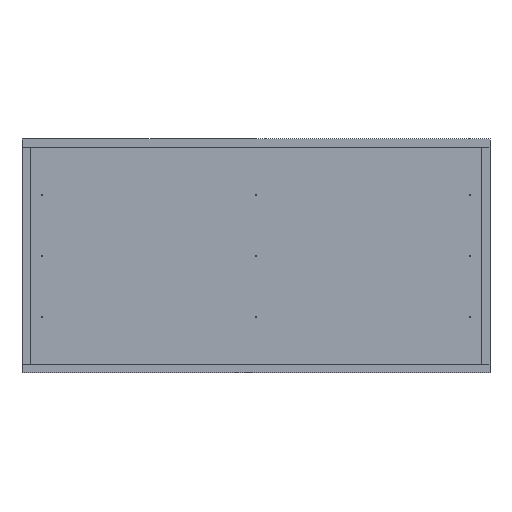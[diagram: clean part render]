
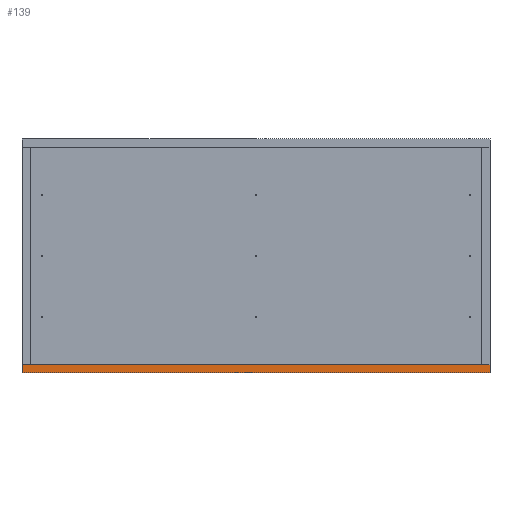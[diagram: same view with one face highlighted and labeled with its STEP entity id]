
A CAD part, left-side view. The second image highlights one B-rep face of the part: STEP entity #139.
In plain terms, the highlighted planar face has unit normal (-1, 0, 0).
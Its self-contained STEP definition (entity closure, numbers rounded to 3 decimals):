
#139 = ADVANCED_FACE('',(#140),#154,.F.);
#140 = FACE_BOUND('',#141,.F.);
#141 = EDGE_LOOP('',(#142,#177,#205,#233));
#142 = ORIENTED_EDGE('',*,*,#143,.F.);
#143 = EDGE_CURVE('',#144,#146,#148,.T.);
#144 = VERTEX_POINT('',#145);
#145 = CARTESIAN_POINT('',(0.,0.,0.));
#146 = VERTEX_POINT('',#147);
#147 = CARTESIAN_POINT('',(0.,0.,18.));
#148 = SURFACE_CURVE('',#149,(#153,#165),.PCURVE_S1.);
#149 = LINE('',#150,#151);
#150 = CARTESIAN_POINT('',(0.,0.,0.));
#151 = VECTOR('',#152,1.);
#152 = DIRECTION('',(0.,0.,1.));
#153 = PCURVE('',#154,#159);
#154 = PLANE('',#155);
#155 = AXIS2_PLACEMENT_3D('',#156,#157,#158);
#156 = CARTESIAN_POINT('',(0.,0.,0.));
#157 = DIRECTION('',(1.,0.,-0.));
#158 = DIRECTION('',(0.,0.,1.));
#159 = DEFINITIONAL_REPRESENTATION('',(#160),#164);
#160 = LINE('',#161,#162);
#161 = CARTESIAN_POINT('',(0.,0.));
#162 = VECTOR('',#163,1.);
#163 = DIRECTION('',(1.,0.));
#164 = ( GEOMETRIC_REPRESENTATION_CONTEXT(2) 
PARAMETRIC_REPRESENTATION_CONTEXT() REPRESENTATION_CONTEXT('2D SPACE',''
  ) );
#165 = PCURVE('',#166,#171);
#166 = PLANE('',#167);
#167 = AXIS2_PLACEMENT_3D('',#168,#169,#170);
#168 = CARTESIAN_POINT('',(0.,0.,0.));
#169 = DIRECTION('',(-0.,1.,0.));
#170 = DIRECTION('',(0.,0.,1.));
#171 = DEFINITIONAL_REPRESENTATION('',(#172),#176);
#172 = LINE('',#173,#174);
#173 = CARTESIAN_POINT('',(0.,0.));
#174 = VECTOR('',#175,1.);
#175 = DIRECTION('',(1.,0.));
#176 = ( GEOMETRIC_REPRESENTATION_CONTEXT(2) 
PARAMETRIC_REPRESENTATION_CONTEXT() REPRESENTATION_CONTEXT('2D SPACE',''
  ) );
#177 = ORIENTED_EDGE('',*,*,#178,.T.);
#178 = EDGE_CURVE('',#144,#179,#181,.T.);
#179 = VERTEX_POINT('',#180);
#180 = CARTESIAN_POINT('',(0.,1000.,0.));
#181 = SURFACE_CURVE('',#182,(#186,#193),.PCURVE_S1.);
#182 = LINE('',#183,#184);
#183 = CARTESIAN_POINT('',(0.,0.,0.));
#184 = VECTOR('',#185,1.);
#185 = DIRECTION('',(-0.,1.,0.));
#186 = PCURVE('',#154,#187);
#187 = DEFINITIONAL_REPRESENTATION('',(#188),#192);
#188 = LINE('',#189,#190);
#189 = CARTESIAN_POINT('',(0.,0.));
#190 = VECTOR('',#191,1.);
#191 = DIRECTION('',(0.,-1.));
#192 = ( GEOMETRIC_REPRESENTATION_CONTEXT(2) 
PARAMETRIC_REPRESENTATION_CONTEXT() REPRESENTATION_CONTEXT('2D SPACE',''
  ) );
#193 = PCURVE('',#194,#199);
#194 = PLANE('',#195);
#195 = AXIS2_PLACEMENT_3D('',#196,#197,#198);
#196 = CARTESIAN_POINT('',(0.,0.,0.));
#197 = DIRECTION('',(0.,0.,1.));
#198 = DIRECTION('',(1.,0.,-0.));
#199 = DEFINITIONAL_REPRESENTATION('',(#200),#204);
#200 = LINE('',#201,#202);
#201 = CARTESIAN_POINT('',(0.,0.));
#202 = VECTOR('',#203,1.);
#203 = DIRECTION('',(0.,1.));
#204 = ( GEOMETRIC_REPRESENTATION_CONTEXT(2) 
PARAMETRIC_REPRESENTATION_CONTEXT() REPRESENTATION_CONTEXT('2D SPACE',''
  ) );
#205 = ORIENTED_EDGE('',*,*,#206,.T.);
#206 = EDGE_CURVE('',#179,#207,#209,.T.);
#207 = VERTEX_POINT('',#208);
#208 = CARTESIAN_POINT('',(0.,1000.,18.));
#209 = SURFACE_CURVE('',#210,(#214,#221),.PCURVE_S1.);
#210 = LINE('',#211,#212);
#211 = CARTESIAN_POINT('',(0.,1000.,0.));
#212 = VECTOR('',#213,1.);
#213 = DIRECTION('',(0.,0.,1.));
#214 = PCURVE('',#154,#215);
#215 = DEFINITIONAL_REPRESENTATION('',(#216),#220);
#216 = LINE('',#217,#218);
#217 = CARTESIAN_POINT('',(0.,-1000.));
#218 = VECTOR('',#219,1.);
#219 = DIRECTION('',(1.,0.));
#220 = ( GEOMETRIC_REPRESENTATION_CONTEXT(2) 
PARAMETRIC_REPRESENTATION_CONTEXT() REPRESENTATION_CONTEXT('2D SPACE',''
  ) );
#221 = PCURVE('',#222,#227);
#222 = PLANE('',#223);
#223 = AXIS2_PLACEMENT_3D('',#224,#225,#226);
#224 = CARTESIAN_POINT('',(0.,1000.,0.));
#225 = DIRECTION('',(-0.,1.,0.));
#226 = DIRECTION('',(0.,0.,1.));
#227 = DEFINITIONAL_REPRESENTATION('',(#228),#232);
#228 = LINE('',#229,#230);
#229 = CARTESIAN_POINT('',(0.,0.));
#230 = VECTOR('',#231,1.);
#231 = DIRECTION('',(1.,0.));
#232 = ( GEOMETRIC_REPRESENTATION_CONTEXT(2) 
PARAMETRIC_REPRESENTATION_CONTEXT() REPRESENTATION_CONTEXT('2D SPACE',''
  ) );
#233 = ORIENTED_EDGE('',*,*,#234,.F.);
#234 = EDGE_CURVE('',#146,#207,#235,.T.);
#235 = SURFACE_CURVE('',#236,(#240,#247),.PCURVE_S1.);
#236 = LINE('',#237,#238);
#237 = CARTESIAN_POINT('',(0.,0.,18.));
#238 = VECTOR('',#239,1.);
#239 = DIRECTION('',(-0.,1.,0.));
#240 = PCURVE('',#154,#241);
#241 = DEFINITIONAL_REPRESENTATION('',(#242),#246);
#242 = LINE('',#243,#244);
#243 = CARTESIAN_POINT('',(18.,0.));
#244 = VECTOR('',#245,1.);
#245 = DIRECTION('',(0.,-1.));
#246 = ( GEOMETRIC_REPRESENTATION_CONTEXT(2) 
PARAMETRIC_REPRESENTATION_CONTEXT() REPRESENTATION_CONTEXT('2D SPACE',''
  ) );
#247 = PCURVE('',#248,#253);
#248 = PLANE('',#249);
#249 = AXIS2_PLACEMENT_3D('',#250,#251,#252);
#250 = CARTESIAN_POINT('',(0.,0.,18.));
#251 = DIRECTION('',(0.,0.,1.));
#252 = DIRECTION('',(1.,0.,-0.));
#253 = DEFINITIONAL_REPRESENTATION('',(#254),#258);
#254 = LINE('',#255,#256);
#255 = CARTESIAN_POINT('',(0.,0.));
#256 = VECTOR('',#257,1.);
#257 = DIRECTION('',(0.,1.));
#258 = ( GEOMETRIC_REPRESENTATION_CONTEXT(2) 
PARAMETRIC_REPRESENTATION_CONTEXT() REPRESENTATION_CONTEXT('2D SPACE',''
  ) );
